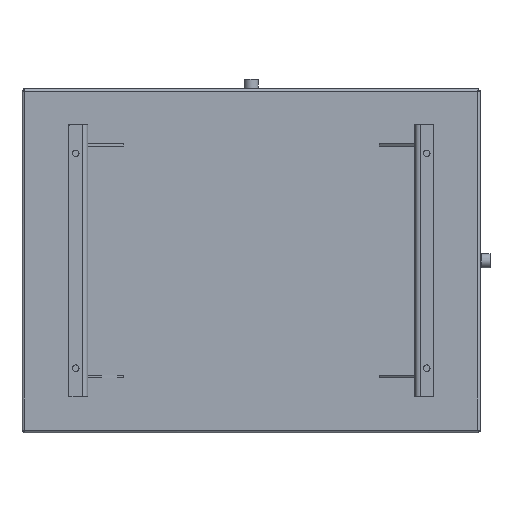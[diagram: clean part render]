
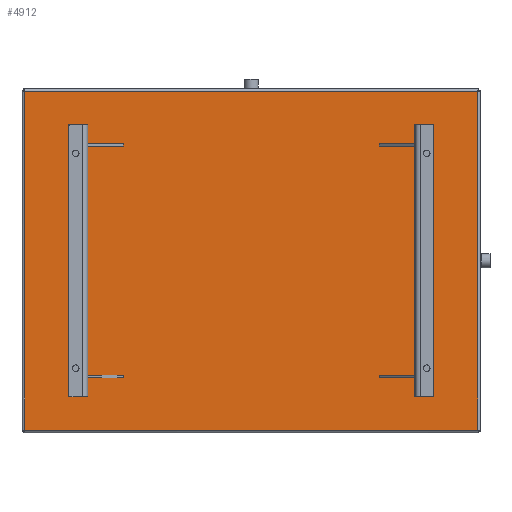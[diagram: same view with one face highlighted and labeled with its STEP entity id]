
A CAD part, front view. The second image highlights one B-rep face of the part: STEP entity #4912.
In plain terms, the highlighted planar face has unit normal (0, -1, 0).
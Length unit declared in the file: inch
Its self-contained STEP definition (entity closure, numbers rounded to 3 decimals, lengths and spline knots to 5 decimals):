
#37 = ORIENTED_EDGE ( 'NONE', *, *, #2403, .T. ) ;
#116 = ORIENTED_EDGE ( 'NONE', *, *, #2472, .T. ) ;
#259 = ORIENTED_EDGE ( 'NONE', *, *, #2427, .T. ) ;
#553 = DIRECTION ( 'NONE',  ( 0., 0., -1. ) ) ;
#559 = DIRECTION ( 'NONE',  ( 0., -1., 0. ) ) ;
#563 = PLANE ( 'NONE',  #1276 ) ;
#569 = CARTESIAN_POINT ( 'NONE',  ( -37.60284, -1.51929, -15.12531 ) ) ;
#634 = CARTESIAN_POINT ( 'NONE',  ( -37.44789, -1.51929, -14.84871 ) ) ;
#910 = DIRECTION ( 'NONE',  ( 1., 0., 0. ) ) ;
#1013 = CARTESIAN_POINT ( 'NONE',  ( 10.12056, -1.51929, -14.84871 ) ) ;
#1177 = VERTEX_POINT ( 'NONE', #3802 ) ;
#1276 = AXIS2_PLACEMENT_3D ( 'NONE', #569, #559, #553 ) ;
#1314 = LINE ( 'NONE', #2438, #3820 ) ;
#1631 = VERTEX_POINT ( 'NONE', #3693 ) ;
#1644 = CARTESIAN_POINT ( 'NONE',  ( 10.12056, -1.51929, -14.97036 ) ) ;
#1666 = DIRECTION ( 'NONE',  ( 0., 0., 1. ) ) ;
#1781 = DIRECTION ( 'NONE',  ( 0., 0., -1. ) ) ;
#1792 = CARTESIAN_POINT ( 'NONE',  ( -37.32624, -1.51929, 20.71973 ) ) ;
#1970 = ORIENTED_EDGE ( 'NONE', *, *, #2381, .T. ) ;
#2158 = LINE ( 'NONE', #1644, #5391 ) ;
#2381 = EDGE_CURVE ( 'NONE', #1631, #1177, #1314, .T. ) ;
#2403 = EDGE_CURVE ( 'NONE', #1177, #4272, #3681, .T. ) ;
#2409 = DIRECTION ( 'NONE',  ( -1., 0., 0. ) ) ;
#2427 = EDGE_CURVE ( 'NONE', #4691, #1631, #2158, .T. ) ;
#2438 = CARTESIAN_POINT ( 'NONE',  ( 10.2422, -1.51929, 20.59809 ) ) ;
#2472 = EDGE_CURVE ( 'NONE', #4272, #4691, #4936, .T. ) ;
#2563 = VECTOR ( 'NONE', #910, 39.37008 ) ;
#3083 = CARTESIAN_POINT ( 'NONE',  ( -37.32624, -1.51929, -14.84871 ) ) ;
#3681 = LINE ( 'NONE', #1792, #5595 ) ;
#3693 = CARTESIAN_POINT ( 'NONE',  ( 10.12056, -1.51929, 20.59809 ) ) ;
#3802 = CARTESIAN_POINT ( 'NONE',  ( -37.32624, -1.51929, 20.59809 ) ) ;
#3820 = VECTOR ( 'NONE', #2409, 39.37008 ) ;
#4118 = EDGE_LOOP ( 'NONE', ( #259, #1970, #37, #116 ) ) ;
#4272 = VERTEX_POINT ( 'NONE', #3083 ) ;
#4691 = VERTEX_POINT ( 'NONE', #1013 ) ;
#4912 = ADVANCED_FACE ( 'NONE', ( #5106 ), #563, .T. ) ;
#4936 = LINE ( 'NONE', #634, #2563 ) ;
#5106 = FACE_OUTER_BOUND ( 'NONE', #4118, .T. ) ;
#5391 = VECTOR ( 'NONE', #1666, 39.37008 ) ;
#5595 = VECTOR ( 'NONE', #1781, 39.37008 ) ;
